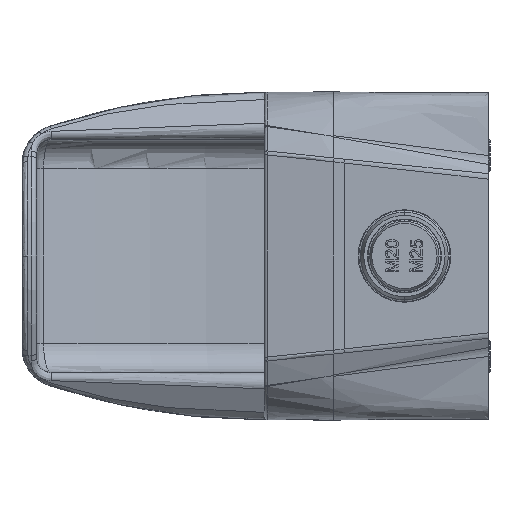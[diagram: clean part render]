
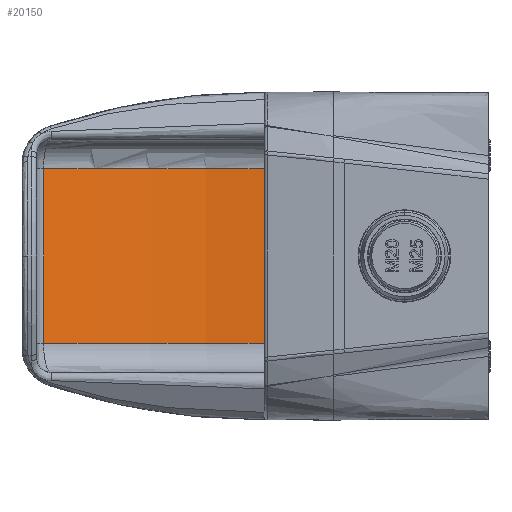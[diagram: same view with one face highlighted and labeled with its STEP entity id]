
A CAD part, left-side view. The second image highlights one B-rep face of the part: STEP entity #20150.
In plain terms, the highlighted cylindrical face has radius 117.5 mm (diameter 235 mm), a partial arc.
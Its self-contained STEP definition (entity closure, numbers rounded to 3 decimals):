
#5825 = DIRECTION ( 'NONE',  ( -1., 0., 0. ) ) ;
#5828 = FACE_OUTER_BOUND ( 'NONE', #28953, .T. ) ;
#5829 = CARTESIAN_POINT ( 'NONE',  ( 45., 0.167, 122. ) ) ;
#5831 = CYLINDRICAL_SURFACE ( 'NONE', #6639, 117.5 ) ;
#5832 = DIRECTION ( 'NONE',  ( 0., 0., 1. ) ) ;
#6639 = AXIS2_PLACEMENT_3D ( 'NONE', #5829, #5825, #5832 ) ;
#18109 = VECTOR ( 'NONE', #24007, 1000. ) ;
#18159 = VECTOR ( 'NONE', #25075, 1000. ) ;
#18233 = CIRCLE ( 'NONE', #18234, 117.5 ) ;
#18234 = AXIS2_PLACEMENT_3D ( 'NONE', #25072, #25073, #25074 ) ;
#18235 = CIRCLE ( 'NONE', #18237, 117.5 ) ;
#18237 = AXIS2_PLACEMENT_3D ( 'NONE', #25078, #25079, #25080 ) ;
#20150 = ADVANCED_FACE ( 'NONE', ( #5828 ), #5831, .F. ) ;
#24005 = LINE ( 'NONE', #24006, #18109 ) ;
#24006 = CARTESIAN_POINT ( 'NONE',  ( 42.5, 0., 4.5 ) ) ;
#24007 = DIRECTION ( 'NONE',  ( -1., 0., 0. ) ) ;
#24371 = CARTESIAN_POINT ( 'NONE',  ( 24., 0., 4.5 ) ) ;
#24388 = CARTESIAN_POINT ( 'NONE',  ( 24., 60.556, 21.206 ) ) ;
#24389 = CARTESIAN_POINT ( 'NONE',  ( -24., 0., 4.5 ) ) ;
#24421 = CARTESIAN_POINT ( 'NONE',  ( -24., 60.556, 21.206 ) ) ;
#25057 = CARTESIAN_POINT ( 'NONE',  ( 45., 60.556, 21.206 ) ) ;
#25071 = LINE ( 'NONE', #25057, #18159 ) ;
#25072 = CARTESIAN_POINT ( 'NONE',  ( 24., 0.167, 122. ) ) ;
#25073 = DIRECTION ( 'NONE',  ( 1., 0., 0. ) ) ;
#25074 = DIRECTION ( 'NONE',  ( 0., 0., 1. ) ) ;
#25075 = DIRECTION ( 'NONE',  ( -1., 0., 0. ) ) ;
#25078 = CARTESIAN_POINT ( 'NONE',  ( -24., 0.167, 122. ) ) ;
#25079 = DIRECTION ( 'NONE',  ( 1., 0., 0. ) ) ;
#25080 = DIRECTION ( 'NONE',  ( 0., 0., 1. ) ) ;
#27719 = ORIENTED_EDGE ( 'NONE', *, *, #31312, .T. ) ;
#27720 = ORIENTED_EDGE ( 'NONE', *, *, #31313, .T. ) ;
#27721 = ORIENTED_EDGE ( 'NONE', *, *, #31314, .F. ) ;
#27722 = ORIENTED_EDGE ( 'NONE', *, *, #29608, .F. ) ;
#28953 = EDGE_LOOP ( 'NONE', ( #27719, #27720, #27721, #27722 ) ) ;
#29608 = EDGE_CURVE ( 'NONE', #30614, #30647, #24005, .T. ) ;
#30614 = VERTEX_POINT ( 'NONE', #24371 ) ;
#30645 = VERTEX_POINT ( 'NONE', #24388 ) ;
#30647 = VERTEX_POINT ( 'NONE', #24389 ) ;
#30706 = VERTEX_POINT ( 'NONE', #24421 ) ;
#31312 = EDGE_CURVE ( 'NONE', #30614, #30645, #18233, .T. ) ;
#31313 = EDGE_CURVE ( 'NONE', #30645, #30706, #25071, .T. ) ;
#31314 = EDGE_CURVE ( 'NONE', #30647, #30706, #18235, .T. ) ;
